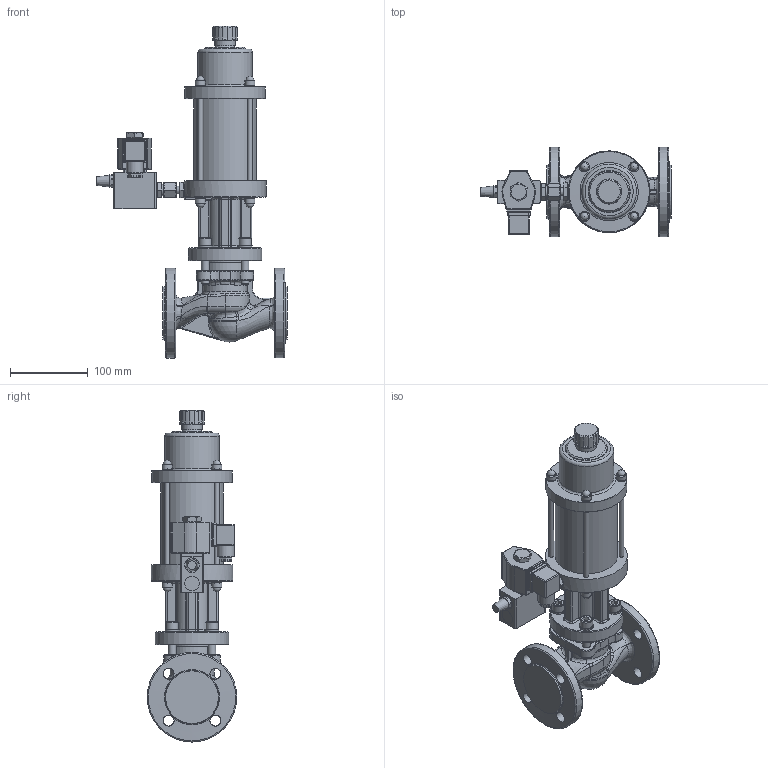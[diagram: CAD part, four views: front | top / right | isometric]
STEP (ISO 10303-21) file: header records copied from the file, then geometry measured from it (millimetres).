
FILE_DESCRIPTION((''),'2;1');
FILE_NAME('G:\CAD-Download\EPVA\6-4-EPVA\DN 25\6-4-EPVA 10N-4.00.32.stp','2010-03-10T07:51:39',('hb'),(''),'Autodesk Inventor 2008','Autodesk Inventor 2008','');
FILE_SCHEMA(('AUTOMOTIVE_DESIGN { 1 0 10303 214 1 1 1 1 }'));
Length unit declared in the file: millimetre
Products named in the file (1): 6-4-EPVA 10N-4.00
Bounding box: 244.99 x 115 x 426.05 mm (x, y, z)
Volume: 2191377.1 mm3; surface area: 242339.1 mm2
Topology: 1 solids, 1 shells, 1024 faces, 2606 edges, 1562 vertices
Faces by surface type: plane 439, bspline 242, cylinder 214, cone 65, torus 39, sphere 25
Full cylindrical faces by diameter (mm): 6 x8, 7 x4, 10 x13, 11.5 x8, 13 x8, 14 x5, 14.376 x1, 16 x5, 19 x2, 20.15 x2, 21.5 x1, 26.6 x1, 32.2 x1, 47.7 x1, 55.8 x1, 70 x1, 80 x1, 94 x1, 104 x1, 105 x1, 115 x1
Entity records: 49703 total; most frequent: CARTESIAN_POINT 26569, ORIENTED_EDGE 4652, DIRECTION 4301, EDGE_CURVE 2326, AXIS2_PLACEMENT_3D 1745, VERTEX_POINT 1463, EDGE_LOOP 1274, FACE_OUTER_BOUND 1024
